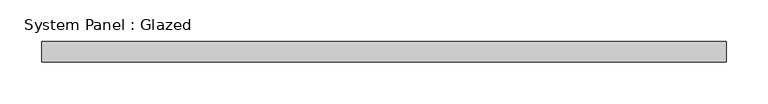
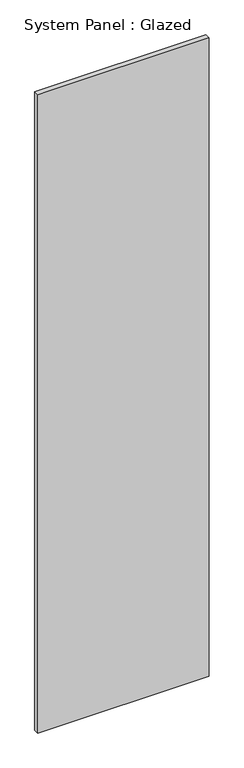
"""IFC4 building model written with IfcOpenShell, lengths in millimetres: plate geometry, System Panel : Glazed."""

from ifc_helpers import new_model, si_unit, origin, origin_with_axes, place, context, project, spatial, polyline, outline, extrude, source, transform, mapped, element, save


def system_panel_glazed_17ea2be8(model_context):
    return source(origin(), model_context, "Body", "SweptSolid", [
        extrude(outline(polyline([(412.5000002, -49.5), (-412.5000002, -49.5), (-412.5000002, -24.5), (412.5000002, -24.5), (412.5000002, -49.5)])), origin_with_axes(), (0.0, 0.0, 1.0), 3250.0),
    ])


if __name__ == "__main__":
    model = new_model("IFC4")
    model_context = context("Model", 3, world=origin())
    ifc_project = project(units=[si_unit("LENGTHUNIT", "METRE", prefix="MILLI")], contexts=[model_context])
    site = spatial("IfcSite", under=ifc_project)
    building = spatial("IfcBuilding", under=site)
    placement = place(None, origin())
    system_panel_glazed_shape = system_panel_glazed_17ea2be8(model_context)
    element("IfcPlate", 1, ObjectType="System Panel : Glazed", at=placement, inside=building, context=model_context, shape_type="MappedRepresentation", body=[
        mapped(system_panel_glazed_shape, transform((0.0, 0.0, 0.0), x_axis=(1.0, 0.0, 0.0), y_axis=(0.0, 1.0, 0.0), z_axis=(0.0, 0.0, 1.0))),
    ])
    save(model, "model.ifc")
